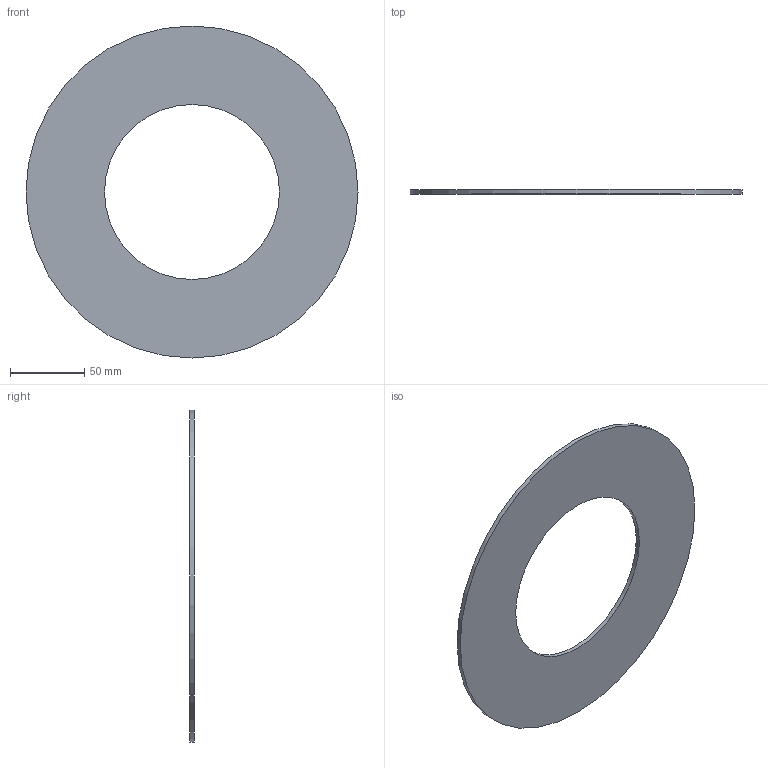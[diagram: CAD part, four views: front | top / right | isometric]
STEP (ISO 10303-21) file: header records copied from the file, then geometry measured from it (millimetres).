
FILE_DESCRIPTION(/* description */ ('Unknown'),/* implementation_level */ '2;1');
FILE_NAME(/* name */ 'GUA.160H',/* time_stamp */ '2021-04-01T15:04:24+02:00',/* author */ ('Unknown'),/* organization */ ('Unknown'),/* preprocessor_version */ 'ST-DEVELOPER v16.7',/* originating_system */ 'Solid Edge',/* authorisation */ 'Unknown');
FILE_SCHEMA (('AUTOMOTIVE_DESIGN {1 0 10303 214 3 1 1}'));
Length unit declared in the file: millimetre
Products named in the file (1): GUA.160H
Bounding box: 224 x 3 x 224 mm (x, y, z)
Volume: 85416.8 mm3; surface area: 60167.8 mm2
Topology: 1 solids, 1 shells, 4 faces, 6 edges, 4 vertices
Faces by surface type: cylinder 2, plane 2
Full cylindrical faces by diameter (mm): 118 x1, 224 x1
Entity records: 118 total; most frequent: DIRECTION 18, CARTESIAN_POINT 13, AXIS2_PLACEMENT_3D 9, ORIENTED_EDGE 8, EDGE_LOOP 8, FACE_BOUND 8, EDGE_CURVE 4, VERTEX_POINT 4
